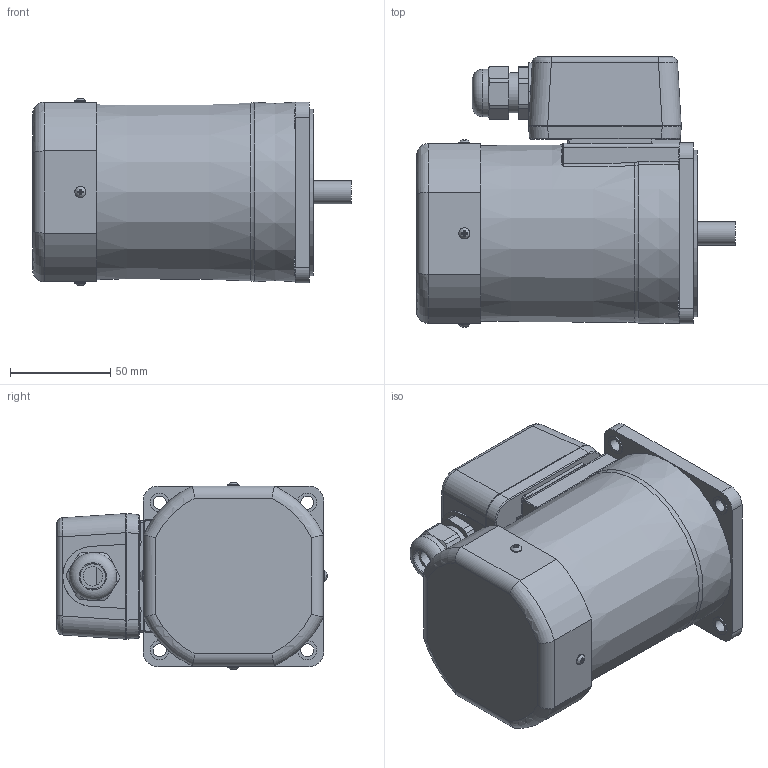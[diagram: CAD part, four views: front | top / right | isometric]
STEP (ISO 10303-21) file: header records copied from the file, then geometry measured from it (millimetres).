
FILE_DESCRIPTION((''),'2;1');
FILE_NAME('D:\김성묵\업무폴더\개발 파일\프로젝트 개발 AB등급\AC표준형 개발자료\90각 이하 표준형 개발\도면작성 자료\3D 도면\홈페이지용 3D 파일\90W MOTOR\T BOX TYPE\S9(I,R)90G-T.stp','2015-03-26T18:59:08',('smkim'),(''),'Autodesk Inventor 2012','Autodesk Inventor 2012','');
FILE_SCHEMA(('AUTOMOTIVE_DESIGN { 1 0 10303 214 1 1 1 1 }'));
Length unit declared in the file: millimetre
Products named in the file (7): S9(I,R)90G-T; S9I90GㅁTCE; S9_60_HOUSING A_접지 삭제ipt; FAN COVER; 552300620; 25W_T_BOX
Assembly tree (9 placements, depth 3):
  S9(I,R)90G-T
    S9I90GㅁTCE
    S9_60_HOUSING A_접지 삭제ipt
    FAN COVER
      FAN COVER
      552300620  x4
    25W_T_BOX
Bounding box: 158.8 x 134.75 x 93.49 mm (x, y, z)
Volume: 1169240.4 mm3; surface area: 117260.6 mm2
Topology: 8 solids, 15 shells, 494 faces, 1183 edges, 754 vertices
Faces by surface type: plane 262, cylinder 131, bspline 55, torus 33, cone 13
Full cylindrical faces by diameter (mm): 2.55 x2, 3 x8, 3.5 x4, 5.6 x8, 6.3 x4, 6.5 x4, 7 x1, 9 x1, 9.5 x4, 11.5 x1, 12.5 x1, 15 x1, 20 x2, 21 x1, 23.6 x1, 40 x1, 83 x1, 86 x1
Entity records: 14578 total; most frequent: CARTESIAN_POINT 4601, ORIENTED_EDGE 1898, DIRECTION 1888, EDGE_CURVE 949, AXIS2_PLACEMENT_3D 700, VERTEX_POINT 644, EDGE_LOOP 543, VECTOR 488
